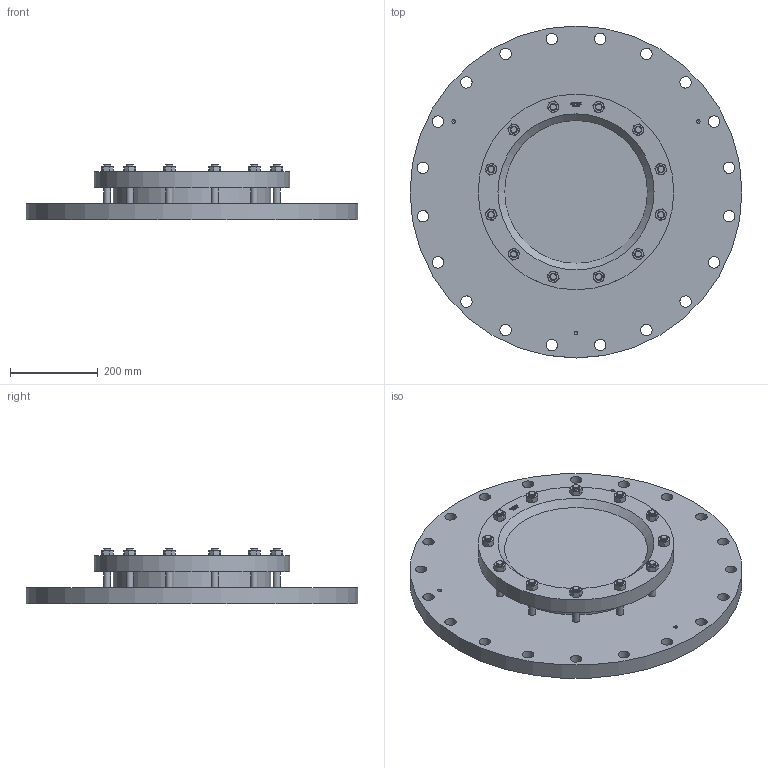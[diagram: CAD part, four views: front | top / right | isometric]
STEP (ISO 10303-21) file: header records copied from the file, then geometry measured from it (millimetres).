
FILE_DESCRIPTION(/* description */ (''),/* implementation_level */ '2;1');
FILE_NAME(/* name */ 'W:\Konstruktion_ACI\325\_STEP\325-600-6.stp',/* time_stamp */ '2022-03-02T17:21:09+01:00',/* author */ ('koslowksi'),/* organization */ (''),/* preprocessor_version */ 'ST-DEVELOPER v16.1',/* originating_system */ 'Autodesk Inventor 2016',/* authorisation */ '');
FILE_SCHEMA (('AUTOMOTIVE_DESIGN { 1 0 10303 214 3 1 1 }'));
Length unit declared in the file: millimetre
Products named in the file (1): 325-600-6
Bounding box: 755 x 755 x 127 mm (x, y, z)
Volume: 24224010.4 mm3; surface area: 1263454.5 mm2
Topology: 1 solids, 1 shells, 549 faces, 1376 edges, 875 vertices
Faces by surface type: plane 231, cone 160, bspline 108, cylinder 50
Full cylindrical faces by diameter (mm): 8.376 x3, 16 x24, 26 x20, 359 x1, 445 x1, 755 x1
Entity records: 16554 total; most frequent: CARTESIAN_POINT 4645, ORIENTED_EDGE 2550, DIRECTION 1913, EDGE_CURVE 1275, VERTEX_POINT 840, EDGE_LOOP 725, AXIS2_PLACEMENT_3D 700, STYLED_ITEM 549
